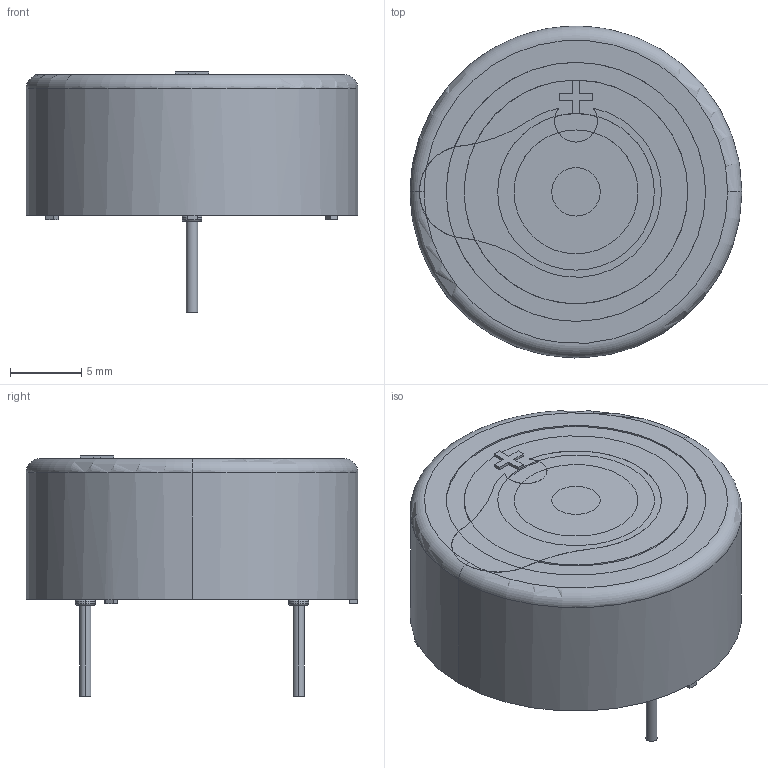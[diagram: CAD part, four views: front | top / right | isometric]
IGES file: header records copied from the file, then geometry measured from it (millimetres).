
Global section: file name: No Iges File Name specified; native system: AutoDesk Inventor R12.0; preprocessor: AutoDesk Inventor Iges Exporter R12.0; date: 20090219.090406; units: millimetre
Bounding box: 23.3 x 23.3 x 16.9 mm (x, y, z)
Volume: 7104.7 mm3; surface area: 3714.7 mm2
Topology: 5 solids, 5 shells, 132 faces, 307 edges, 192 vertices
Faces by surface type: plane 67, cylinder 30, revolution 25, torus 10
